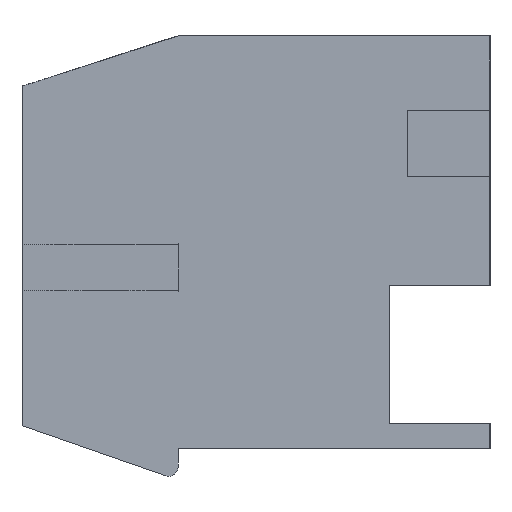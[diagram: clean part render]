
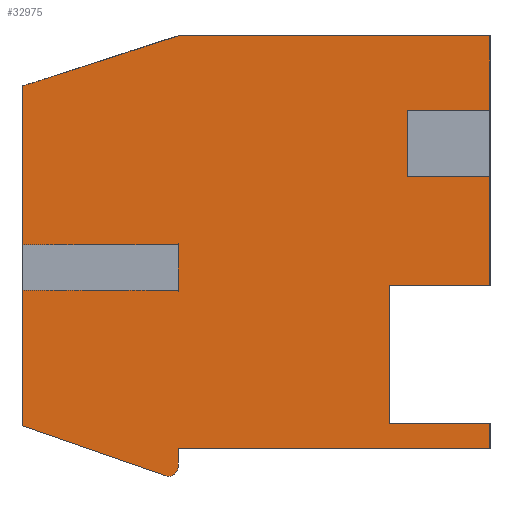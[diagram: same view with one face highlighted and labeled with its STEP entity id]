
A CAD part, left-side view. The second image highlights one B-rep face of the part: STEP entity #32975.
In plain terms, the highlighted planar face has unit normal (-1, 0, 0).
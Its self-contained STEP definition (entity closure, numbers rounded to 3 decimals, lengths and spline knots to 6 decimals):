
#113=DIRECTION('',(0.,0.,-1.));
#114=VECTOR('',#113,0.0004);
#115=CARTESIAN_POINT('',(0.00057,0.0068,-0.009));
#116=LINE('',#115,#114);
#125=DIRECTION('',(0.,1.,0.));
#126=VECTOR('',#125,0.0068);
#127=CARTESIAN_POINT('',(0.00057,0.,-0.009));
#128=LINE('',#127,#126);
#137=DIRECTION('',(0.,0.,-1.));
#138=VECTOR('',#137,0.00055);
#139=CARTESIAN_POINT('',(0.00057,0.,-0.00845));
#140=LINE('',#139,#138);
#149=DIRECTION('',(0.,-1.,0.));
#150=VECTOR('',#149,0.0022);
#151=CARTESIAN_POINT('',(0.00057,0.0022,-0.00845));
#152=LINE('',#151,#150);
#201=DIRECTION('',(0.,0.,-1.));
#202=VECTOR('',#201,0.003);
#203=CARTESIAN_POINT('',(0.00057,0.0022,-0.00545));
#204=LINE('',#203,#202);
#5656=DIRECTION('',(0.,1.,0.));
#5657=VECTOR('',#5656,0.0022);
#5658=CARTESIAN_POINT('',(0.00057,0.,-0.00545));
#5659=LINE('',#5658,#5657);
#5680=DIRECTION('',(0.,0.,-1.));
#5681=VECTOR('',#5680,0.00262);
#5682=CARTESIAN_POINT('',(0.00057,0.,-0.00283));
#5683=LINE('',#5682,#5681);
#5692=DIRECTION('',(0.,0.,-1.));
#5693=VECTOR('',#5692,0.00187);
#5694=CARTESIAN_POINT('',(0.00057,0.,0.));
#5695=LINE('',#5694,#5693);
#5728=DIRECTION('',(0.,-1.,0.));
#5729=VECTOR('',#5728,0.0068);
#5730=CARTESIAN_POINT('',(0.00057,0.0068,0.));
#5731=LINE('',#5730,#5729);
#5776=DIRECTION('',(0.,0.,-1.));
#5777=VECTOR('',#5776,0.00345);
#5778=CARTESIAN_POINT('',(0.00057,0.0102,-0.0011));
#5779=LINE('',#5778,#5777);
#5780=DIRECTION('',(0.,0.951,-0.308));
#5781=VECTOR('',#5780,0.003574);
#5782=CARTESIAN_POINT('',(0.00057,0.0068,0.));
#5783=LINE('',#5782,#5781);
#5784=CARTESIAN_POINT('',(0.00057,0.007,-0.0094));
#5785=DIRECTION('',(-1.,0.,0.));
#5786=DIRECTION('',(0.,0.328,-0.945));
#5787=AXIS2_PLACEMENT_3D('',#5784,#5785,#5786);
#5789=DIRECTION('',(0.,-0.945,-0.328));
#5790=VECTOR('',#5789,0.003318);
#5791=CARTESIAN_POINT('',(0.00057,0.0102,-0.0085));
#5792=LINE('',#5791,#5790);
#5793=DIRECTION('',(0.,0.,-1.));
#5794=VECTOR('',#5793,0.00295);
#5795=CARTESIAN_POINT('',(0.00057,0.0102,-0.00555));
#5796=LINE('',#5795,#5794);
#5797=DIRECTION('',(0.,-1.,0.));
#5798=VECTOR('',#5797,0.0034);
#5799=CARTESIAN_POINT('',(0.00057,0.0102,-0.00555));
#5800=LINE('',#5799,#5798);
#5805=DIRECTION('',(0.,0.,1.));
#5806=VECTOR('',#5805,0.001);
#5807=CARTESIAN_POINT('',(0.00057,0.0068,-0.00555));
#5808=LINE('',#5807,#5806);
#5813=DIRECTION('',(0.,1.,0.));
#5814=VECTOR('',#5813,0.0034);
#5815=CARTESIAN_POINT('',(0.00057,0.0068,-0.00455));
#5816=LINE('',#5815,#5814);
#5833=DIRECTION('',(0.,1.,0.));
#5834=VECTOR('',#5833,0.0018);
#5835=CARTESIAN_POINT('',(0.00057,0.,-0.00187));
#5836=LINE('',#5835,#5834);
#5841=DIRECTION('',(0.,0.,-1.));
#5842=VECTOR('',#5841,0.00096);
#5843=CARTESIAN_POINT('',(0.00057,0.0018,-0.00187));
#5844=LINE('',#5843,#5842);
#5849=DIRECTION('',(0.,-1.,0.));
#5850=VECTOR('',#5849,0.0018);
#5851=CARTESIAN_POINT('',(0.00057,0.0018,-0.00283));
#5852=LINE('',#5851,#5850);
#22214=CARTESIAN_POINT('',(0.00057,0.0102,-0.0011));
#22215=CARTESIAN_POINT('',(0.00057,0.0102,-0.00455));
#22216=VERTEX_POINT('',#22214);
#22217=VERTEX_POINT('',#22215);
#22222=CARTESIAN_POINT('',(0.00057,0.0102,-0.00555));
#22223=VERTEX_POINT('',#22222);
#22224=CARTESIAN_POINT('',(0.00057,0.0102,-0.0085));
#22225=VERTEX_POINT('',#22224);
#22234=CARTESIAN_POINT('',(0.00057,0.007066,
-0.009589));
#22235=VERTEX_POINT('',#22234);
#22236=CARTESIAN_POINT('',(0.00057,0.0068,-0.00555));
#22237=CARTESIAN_POINT('',(0.00057,0.0068,-0.00455));
#22238=VERTEX_POINT('',#22236);
#22239=VERTEX_POINT('',#22237);
#22240=CARTESIAN_POINT('',(0.00057,0.0068,0.));
#22241=VERTEX_POINT('',#22240);
#22242=CARTESIAN_POINT('',(0.00057,0.,0.));
#22243=VERTEX_POINT('',#22242);
#22244=CARTESIAN_POINT('',(0.00057,0.,-0.00187));
#22245=VERTEX_POINT('',#22244);
#22246=CARTESIAN_POINT('',(0.00057,0.0018,-0.00187));
#22247=VERTEX_POINT('',#22246);
#22248=CARTESIAN_POINT('',(0.00057,0.0018,-0.00283));
#22249=VERTEX_POINT('',#22248);
#22250=CARTESIAN_POINT('',(0.00057,0.,-0.00283));
#22251=VERTEX_POINT('',#22250);
#22252=CARTESIAN_POINT('',(0.00057,0.,-0.00545));
#22253=VERTEX_POINT('',#22252);
#22254=CARTESIAN_POINT('',(0.00057,0.0022,-0.00545));
#22255=VERTEX_POINT('',#22254);
#22256=CARTESIAN_POINT('',(0.00057,0.0022,-0.00845));
#22257=VERTEX_POINT('',#22256);
#22258=CARTESIAN_POINT('',(0.00057,0.,-0.00845));
#22259=VERTEX_POINT('',#22258);
#22260=CARTESIAN_POINT('',(0.00057,0.,-0.009));
#22261=VERTEX_POINT('',#22260);
#22262=CARTESIAN_POINT('',(0.00057,0.0068,-0.009));
#22263=VERTEX_POINT('',#22262);
#22264=CARTESIAN_POINT('',(0.00057,0.0068,-0.0094));
#22265=VERTEX_POINT('',#22264);
#32942=CARTESIAN_POINT('',(0.00057,0.0051,-0.0048));
#32943=DIRECTION('',(1.,0.,0.));
#32944=DIRECTION('',(0.,-1.,0.));
#32945=AXIS2_PLACEMENT_3D('',#32942,#32943,#32944);
#32946=PLANE('',#32945);
#32948=ORIENTED_EDGE('',*,*,#32947,.T.);
#32950=ORIENTED_EDGE('',*,*,#32949,.T.);
#32952=ORIENTED_EDGE('',*,*,#32951,.T.);
#32953=ORIENTED_EDGE('',*,*,#26072,.F.);
#32954=ORIENTED_EDGE('',*,*,#32697,.F.);
#32955=ORIENTED_EDGE('',*,*,#32892,.T.);
#32956=ORIENTED_EDGE('',*,*,#32835,.T.);
#32958=ORIENTED_EDGE('',*,*,#32957,.T.);
#32960=ORIENTED_EDGE('',*,*,#32959,.T.);
#32962=ORIENTED_EDGE('',*,*,#32961,.T.);
#32963=ORIENTED_EDGE('',*,*,#32827,.T.);
#32964=ORIENTED_EDGE('',*,*,#32802,.T.);
#32965=ORIENTED_EDGE('',*,*,#26263,.T.);
#32966=ORIENTED_EDGE('',*,*,#26248,.T.);
#32967=ORIENTED_EDGE('',*,*,#26233,.T.);
#32968=ORIENTED_EDGE('',*,*,#26218,.T.);
#32969=ORIENTED_EDGE('',*,*,#26203,.T.);
#32970=ORIENTED_EDGE('',*,*,#26188,.F.);
#32971=ORIENTED_EDGE('',*,*,#26173,.F.);
#32972=ORIENTED_EDGE('',*,*,#26080,.F.);
#32973=EDGE_LOOP('',(#32948,#32950,#32952,#32953,#32954,#32955,#32956,#32958,
#32960,#32962,#32963,#32964,#32965,#32966,#32967,#32968,#32969,#32970,#32971,
#32972));
#32974=FACE_OUTER_BOUND('',#32973,.F.);
#32975=ADVANCED_FACE('',(#32974),#32946,.F.);
#5788=CIRCLE('',#5787,0.0002);
#26072=EDGE_CURVE('',#22216,#22217,#5779,.T.);
#26080=EDGE_CURVE('',#22223,#22225,#5796,.T.);
#26173=EDGE_CURVE('',#22225,#22235,#5792,.T.);
#26188=EDGE_CURVE('',#22235,#22265,#5788,.T.);
#26203=EDGE_CURVE('',#22263,#22265,#116,.T.);
#26218=EDGE_CURVE('',#22261,#22263,#128,.T.);
#26233=EDGE_CURVE('',#22259,#22261,#140,.T.);
#26248=EDGE_CURVE('',#22257,#22259,#152,.T.);
#26263=EDGE_CURVE('',#22255,#22257,#204,.T.);
#32697=EDGE_CURVE('',#22241,#22216,#5783,.T.);
#32802=EDGE_CURVE('',#22253,#22255,#5659,.T.);
#32827=EDGE_CURVE('',#22251,#22253,#5683,.T.);
#32835=EDGE_CURVE('',#22243,#22245,#5695,.T.);
#32892=EDGE_CURVE('',#22241,#22243,#5731,.T.);
#32947=EDGE_CURVE('',#22223,#22238,#5800,.T.);
#32949=EDGE_CURVE('',#22238,#22239,#5808,.T.);
#32951=EDGE_CURVE('',#22239,#22217,#5816,.T.);
#32957=EDGE_CURVE('',#22245,#22247,#5836,.T.);
#32959=EDGE_CURVE('',#22247,#22249,#5844,.T.);
#32961=EDGE_CURVE('',#22249,#22251,#5852,.T.);
